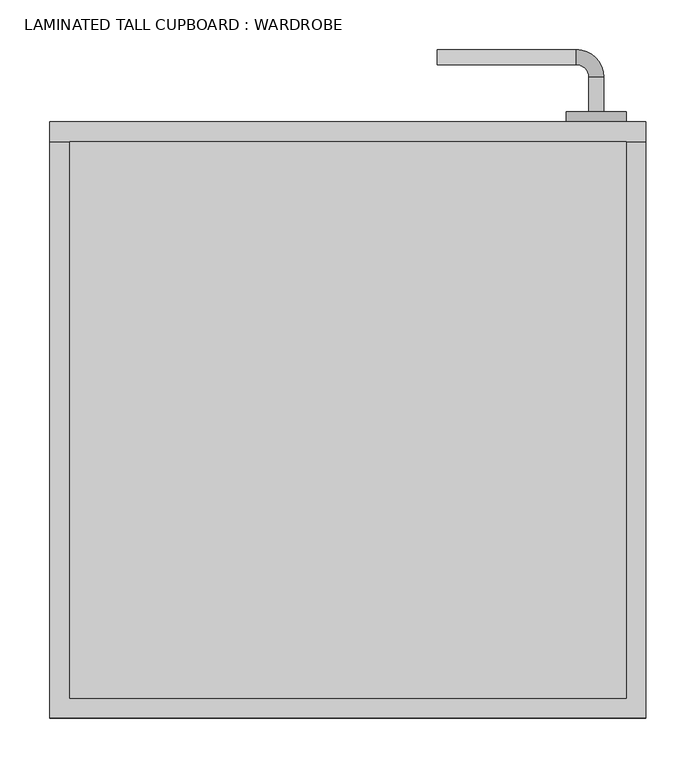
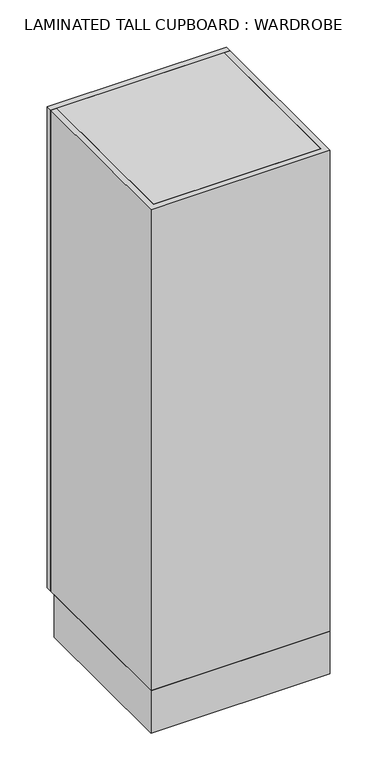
"""IFC4 building model written with IfcOpenShell, lengths in millimetres: furniture geometry, LAMINATED TALL CUPBOARD : WARDROBE."""

from ifc_helpers import new_model, si_unit, point, frame, frame_2d, origin, origin_with_axes, place, context, project, spatial, polyline, circle_curve, ellipse_curve, trimmed, segment, composite_curve, outline, extrude, source, transform, mapped, element, save
from ifc_brep_helpers import plane_surface, cylinder_surface, revolved_surface, advanced_brep


def laminated_tall_cupboard_wardrobe_5f220087(model_context):
    return source(origin(), model_context, "Body", "SolidModel", [
        advanced_brep(
        [(302.2003264, 610.0, 1000.0), (287.2003264, 610.0, 1000.0), (287.2003264, 645.0, 1000.0), (302.2003264, 645.0, 1000.0), (274.7003264, 657.5, 1000.0), (274.7003264, 672.5, 1000.0), (134.7003264, 672.5, 1000.0), (134.7003264, 657.5, 1000.0)],
        [
            (0, 1, circle_curve(frame((294.7003264, 610.0, 1000.0), z_axis=(0.0, -1.0, 0.0), x_axis=(-1.0, 0.0, 0.0)), 7.5)),
            (1, 0, circle_curve(frame((294.7003264, 610.0, 1000.0), z_axis=(0.0, -1.0, 0.0), x_axis=(-1.0, 0.0, 0.0)), 7.5)),
            (1, 2),
            (2, 3, circle_curve(frame((294.7003264, 645.0, 1000.0), z_axis=(0.0, -1.0, 0.0), x_axis=(-1.0, 0.0, 0.0)), 7.5)),
            (3, 0),
            (3, 2, circle_curve(frame((294.7003264, 645.0, 1000.0), z_axis=(0.0, -1.0, 0.0), x_axis=(-1.0, 0.0, 0.0)), 7.5)),
            (4, 5, circle_curve(frame((274.7003264, 665.0, 1000.0), z_axis=(1.0, 0.0, 0.0), x_axis=(0.0, -1.0, 0.0)), 7.5)),
            (5, 3, circle_curve(frame((274.7003264, 645.0, 1000.0), z_axis=(0.0, 0.0, -1.0), x_axis=(1.0, 0.0, 0.0)), 27.5)),
            (2, 4, circle_curve(frame((274.7003264, 645.0, 1000.0), z_axis=(0.0, 0.0, 1.0), x_axis=(1.0, 0.0, 0.0)), 12.5)),
            (5, 4, circle_curve(frame((274.7003264, 665.0, 1000.0), z_axis=(1.0, 0.0, 0.0), x_axis=(0.0, -1.0, 0.0)), 7.5)),
            (6, 7, circle_curve(frame((134.7003264, 665.0, 1000.0), z_axis=(-1.0, 0.0, 0.0), x_axis=(0.0, -1.0, 0.0)), 7.5)),
            (7, 6, circle_curve(frame((134.7003264, 665.0, 1000.0), z_axis=(-1.0, 0.0, 0.0), x_axis=(0.0, -1.0, 0.0)), 7.5)),
            (4, 7),
            (6, 5),
        ],
        [
            plane_surface(frame((294.7003264, 610.0, 1000.0), z_axis=(0.0, -1.0, 0.0), x_axis=(0.0, 0.0, -1.0))),
            cylinder_surface(frame((294.7003264, 610.0, 1000.0), z_axis=(0.0, -1.0, 0.0), x_axis=(-1.0, 0.0, 0.0)), 7.5),
            revolved_surface(trimmed(ellipse_curve(frame((294.7003264, 645.0, 1000.0), z_axis=(0.0, 1.0, 0.0), x_axis=(-1.0, 0.0, 0.0)), 7.5, 7.5), [point((302.2003264, 645.0, 1000.0))], [point((287.2003264, 645.0, 1000.0))], True, "CARTESIAN"), (274.7003264, 645.0, 1000.0), (0.0, 0.0, -1.0)),
            revolved_surface(trimmed(ellipse_curve(frame((294.7003264, 645.0, 1000.0), z_axis=(0.0, 1.0, 0.0), x_axis=(-1.0, 0.0, 0.0)), 7.5, 7.5), [point((287.2003264, 645.0, 1000.0))], [point((302.2003264, 645.0, 1000.0))], True, "CARTESIAN"), (274.7003264, 645.0, 1000.0), (0.0, 0.0, -1.0)),
            plane_surface(frame((134.7003264, 665.0, 1000.0), z_axis=(-1.0, 0.0, 0.0), x_axis=(0.0, 0.0, -1.0))),
            cylinder_surface(frame((274.7003264, 665.0, 1000.0), z_axis=(1.0, 0.0, 0.0), x_axis=(0.0, -1.0, 0.0)), 7.5),
        ],
        [
            (0, [[1, 2]]),
            (1, [[3, 4, 5, -2]]),
            (1, [[-5, 6, -3, -1]]),
            (2, [[7, 8, -4, 9]]),
            (3, [[10, -9, -6, -8]]),
            (4, [[11, 12]]),
            (5, [[13, -11, 14, -7]]),
            (5, [[-14, -12, -13, -10]]),
        ],
    ),
        extrude(outline(composite_curve([segment(trimmed(circle_curve(frame_2d((1000.0, 294.7003264)), 30.0), [point((1000.0, 324.7003264))], [point((1000.0, 264.7003264))], False, "CARTESIAN"), True, "CONTINUOUS"), segment(trimmed(circle_curve(frame_2d((1000.0, 294.7003264)), 30.0), [point((1000.0, 264.7003264))], [point((1000.0, 324.7003264))], False, "CARTESIAN"), True, "CONTINUOUS")], self_intersect=False)), frame((0.0, 600.0, 0.0), z_axis=(0.0, 1.0, 0.0), x_axis=(0.0, 0.0, 1.0)), (0.0, 0.0, 1.0), 10.0),
        extrude(outline(polyline([(-255.2996736, 560.0), (344.7003264, 560.0), (344.7003264, 0.0), (-255.2996736, 0.0), (-255.2996736, 560.0)]), holes=[polyline([(324.7003264, 20.0), (324.7003264, 540.0), (-235.2996736, 540.0), (-235.2996736, 20.0), (324.7003264, 20.0)])]), origin_with_axes(), (0.0, 0.0, 1.0), 150.0),
        extrude(outline(polyline([(324.7003264, 580.0), (324.7003264, 20.0), (-235.2996736, 20.0), (-235.2996736, 580.0), (324.7003264, 580.0)])), frame((0.0, 0.0, 150.0), z_axis=(0.0, 0.0, 1.0), x_axis=(1.0, 0.0, 0.0)), (0.0, 0.0, 1.0), 20.0),
        extrude(outline(polyline([(324.7003264, 580.0), (324.7003264, 20.0), (-235.2996736, 20.0), (-235.2996736, 580.0), (324.7003264, 580.0)])), frame((0.0, 0.0, 1830.0), z_axis=(0.0, 0.0, 1.0), x_axis=(1.0, 0.0, 0.0)), (0.0, 0.0, 1.0), 20.0),
        extrude(outline(polyline([(344.7003264, 600.0), (344.7003264, 580.0), (-255.2996736, 580.0), (-255.2996736, 600.0), (344.7003264, 600.0)])), frame((0.0, 0.0, 150.0), z_axis=(0.0, 0.0, 1.0), x_axis=(1.0, 0.0, 0.0)), (0.0, 0.0, 1.0), 1700.0),
        extrude(outline(polyline([(-235.2996736, 580.0), (-235.2996736, 20.0), (324.7003264, 20.0), (324.7003264, 580.0), (344.7003264, 580.0), (344.7003264, 0.0), (-255.2996736, 0.0), (-255.2996736, 580.0), (-235.2996736, 580.0)])), frame((0.0, 0.0, 150.0), z_axis=(0.0, 0.0, 1.0), x_axis=(1.0, 0.0, 0.0)), (0.0, 0.0, 1.0), 1700.0),
    ])


if __name__ == "__main__":
    model = new_model("IFC4")
    model_context = context("Model", 3, world=origin())
    ifc_project = project(units=[si_unit("LENGTHUNIT", "METRE", prefix="MILLI")], contexts=[model_context])
    site = spatial("IfcSite", under=ifc_project)
    building = spatial("IfcBuilding", under=site)
    placement = place(None, origin())
    laminated_tall_cupboard_wardrobe_shape = laminated_tall_cupboard_wardrobe_5f220087(model_context)
    element("IfcFurniture", 1, ObjectType="LAMINATED TALL CUPBOARD : WARDROBE", at=placement, inside=building, context=model_context, shape_type="MappedRepresentation", body=[
        mapped(laminated_tall_cupboard_wardrobe_shape, transform((0.0, 0.0, 0.0), x_axis=(1.0, 0.0, 0.0), y_axis=(0.0, 1.0, 0.0), z_axis=(0.0, 0.0, 1.0))),
    ])
    save(model, "model.ifc")
